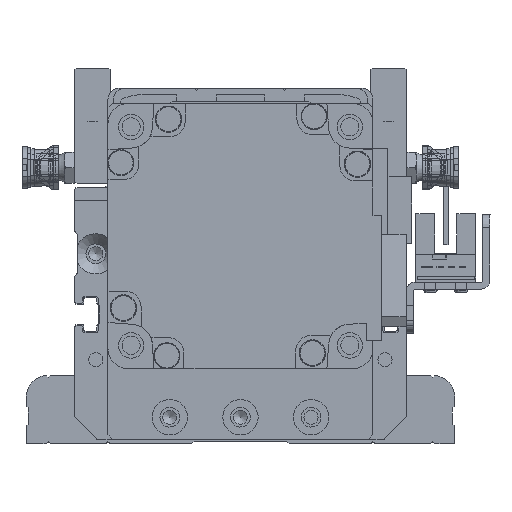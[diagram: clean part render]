
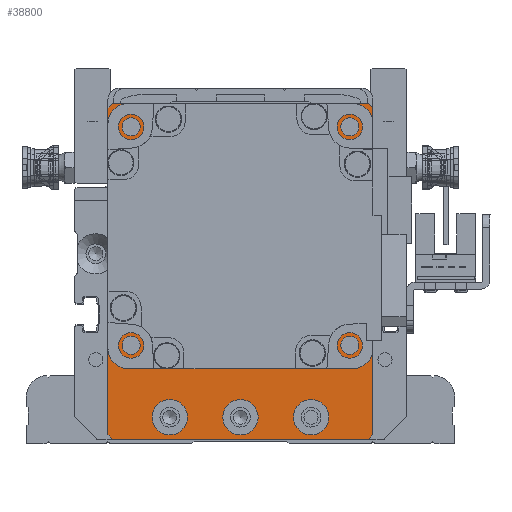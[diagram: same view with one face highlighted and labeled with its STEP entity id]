
A CAD part, front view. The second image highlights one B-rep face of the part: STEP entity #38800.
In plain terms, the highlighted planar face has unit normal (0, -1, 0) as drawn and (0, 0, 1) by its records, which use the part's own axes.
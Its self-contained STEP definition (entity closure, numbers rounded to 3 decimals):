
#2573=FACE_BOUND('',#6607,.T.);
#2574=FACE_BOUND('',#6608,.T.);
#2575=FACE_BOUND('',#6609,.T.);
#2576=FACE_BOUND('',#6610,.T.);
#2577=FACE_BOUND('',#6611,.T.);
#2578=FACE_BOUND('',#6612,.T.);
#2579=FACE_BOUND('',#6613,.T.);
#2580=FACE_BOUND('',#6614,.T.);
#4244=FACE_OUTER_BOUND('',#6606,.T.);
#6606=EDGE_LOOP('',(#33667,#33668,#33669,#33670,#33671,#33672,#33673,#33674));
#6607=EDGE_LOOP('',(#33675));
#6608=EDGE_LOOP('',(#33676));
#6609=EDGE_LOOP('',(#33677));
#6610=EDGE_LOOP('',(#33678));
#6611=EDGE_LOOP('',(#33679));
#6612=EDGE_LOOP('',(#33680));
#6613=EDGE_LOOP('',(#33681));
#6614=EDGE_LOOP('',(#33682));
#8788=CIRCLE('',#43238,25.);
#8789=CIRCLE('',#43239,2.067);
#8790=CIRCLE('',#43240,2.067);
#8791=CIRCLE('',#43241,2.067);
#8792=CIRCLE('',#43242,2.067);
#8793=CIRCLE('',#43243,4.);
#8794=CIRCLE('',#43244,4.);
#8795=CIRCLE('',#43245,4.);
#11544=LINE('',#67370,#14580);
#11546=LINE('',#67374,#14582);
#11549=LINE('',#67380,#14585);
#11550=LINE('',#67382,#14586);
#11551=LINE('',#67384,#14587);
#11552=LINE('',#67386,#14588);
#11553=LINE('',#67388,#14589);
#11554=LINE('',#67389,#14590);
#14580=VECTOR('',#53205,10.);
#14582=VECTOR('',#53209,10.);
#14585=VECTOR('',#53214,10.);
#14586=VECTOR('',#53215,10.);
#14587=VECTOR('',#53216,10.);
#14588=VECTOR('',#53217,10.);
#14589=VECTOR('',#53218,10.);
#14590=VECTOR('',#53219,10.);
#18334=VERTEX_POINT('',#67367);
#18335=VERTEX_POINT('',#67369);
#18336=VERTEX_POINT('',#67373);
#18338=VERTEX_POINT('',#67379);
#18339=VERTEX_POINT('',#67381);
#18340=VERTEX_POINT('',#67383);
#18341=VERTEX_POINT('',#67385);
#18342=VERTEX_POINT('',#67387);
#18343=VERTEX_POINT('',#67390);
#18344=VERTEX_POINT('',#67392);
#18345=VERTEX_POINT('',#67394);
#18346=VERTEX_POINT('',#67396);
#18347=VERTEX_POINT('',#67398);
#18348=VERTEX_POINT('',#67400);
#18349=VERTEX_POINT('',#67402);
#18350=VERTEX_POINT('',#67404);
#23588=EDGE_CURVE('',#18335,#18334,#11544,.T.);
#23590=EDGE_CURVE('',#18335,#18336,#11546,.T.);
#23593=EDGE_CURVE('',#18338,#18334,#11549,.T.);
#23594=EDGE_CURVE('',#18338,#18339,#11550,.T.);
#23595=EDGE_CURVE('',#18340,#18339,#11551,.T.);
#23596=EDGE_CURVE('',#18340,#18341,#11552,.T.);
#23597=EDGE_CURVE('',#18342,#18341,#11553,.T.);
#23598=EDGE_CURVE('',#18342,#18336,#11554,.T.);
#23599=EDGE_CURVE('',#18343,#18343,#8788,.T.);
#23600=EDGE_CURVE('',#18344,#18344,#8789,.T.);
#23601=EDGE_CURVE('',#18345,#18345,#8790,.T.);
#23602=EDGE_CURVE('',#18346,#18346,#8791,.T.);
#23603=EDGE_CURVE('',#18347,#18347,#8792,.T.);
#23604=EDGE_CURVE('',#18348,#18348,#8793,.T.);
#23605=EDGE_CURVE('',#18349,#18349,#8794,.T.);
#23606=EDGE_CURVE('',#18350,#18350,#8795,.T.);
#33667=ORIENTED_EDGE('',*,*,#23590,.F.);
#33668=ORIENTED_EDGE('',*,*,#23588,.T.);
#33669=ORIENTED_EDGE('',*,*,#23593,.F.);
#33670=ORIENTED_EDGE('',*,*,#23594,.T.);
#33671=ORIENTED_EDGE('',*,*,#23595,.F.);
#33672=ORIENTED_EDGE('',*,*,#23596,.T.);
#33673=ORIENTED_EDGE('',*,*,#23597,.F.);
#33674=ORIENTED_EDGE('',*,*,#23598,.T.);
#33675=ORIENTED_EDGE('',*,*,#23599,.T.);
#33676=ORIENTED_EDGE('',*,*,#23600,.T.);
#33677=ORIENTED_EDGE('',*,*,#23601,.T.);
#33678=ORIENTED_EDGE('',*,*,#23602,.T.);
#33679=ORIENTED_EDGE('',*,*,#23603,.T.);
#33680=ORIENTED_EDGE('',*,*,#23604,.T.);
#33681=ORIENTED_EDGE('',*,*,#23605,.T.);
#33682=ORIENTED_EDGE('',*,*,#23606,.T.);
#37055=PLANE('',#43237);
#38800=ADVANCED_FACE('',(#4244,#2573,#2574,#2575,#2576,#2577,#2578,#2579,
#2580),#37055,.T.);
#43237=AXIS2_PLACEMENT_3D('',#67378,#53212,#53213);
#43238=AXIS2_PLACEMENT_3D('',#67391,#53220,#53221);
#43239=AXIS2_PLACEMENT_3D('',#67393,#53222,#53223);
#43240=AXIS2_PLACEMENT_3D('',#67395,#53224,#53225);
#43241=AXIS2_PLACEMENT_3D('',#67397,#53226,#53227);
#43242=AXIS2_PLACEMENT_3D('',#67399,#53228,#53229);
#43243=AXIS2_PLACEMENT_3D('',#67401,#53230,#53231);
#43244=AXIS2_PLACEMENT_3D('',#67403,#53232,#53233);
#43245=AXIS2_PLACEMENT_3D('',#67405,#53234,#53235);
#53205=DIRECTION('',(1.,0.,0.));
#53209=DIRECTION('',(-0.707,0.707,0.));
#53212=DIRECTION('center_axis',(0.,0.,1.));
#53213=DIRECTION('ref_axis',(1.,0.,0.));
#53214=DIRECTION('',(-0.707,-0.707,0.));
#53215=DIRECTION('',(0.,1.,0.));
#53216=DIRECTION('',(0.707,-0.707,0.));
#53217=DIRECTION('',(-1.,0.,0.));
#53218=DIRECTION('',(0.707,0.707,0.));
#53219=DIRECTION('',(0.,-1.,0.));
#53220=DIRECTION('center_axis',(0.,0.,-1.));
#53221=DIRECTION('ref_axis',(1.,0.,0.));
#53222=DIRECTION('center_axis',(0.,0.,-1.));
#53223=DIRECTION('ref_axis',(1.,0.,0.));
#53224=DIRECTION('center_axis',(0.,0.,-1.));
#53225=DIRECTION('ref_axis',(1.,0.,0.));
#53226=DIRECTION('center_axis',(0.,0.,-1.));
#53227=DIRECTION('ref_axis',(1.,0.,0.));
#53228=DIRECTION('center_axis',(0.,0.,-1.));
#53229=DIRECTION('ref_axis',(1.,0.,0.));
#53230=DIRECTION('center_axis',(0.,0.,-1.));
#53231=DIRECTION('ref_axis',(1.,0.,0.));
#53232=DIRECTION('center_axis',(0.,0.,-1.));
#53233=DIRECTION('ref_axis',(1.,0.,0.));
#53234=DIRECTION('center_axis',(0.,0.,-1.));
#53235=DIRECTION('ref_axis',(1.,0.,0.));
#67367=CARTESIAN_POINT('',(29.,-38.,59.));
#67369=CARTESIAN_POINT('',(-29.,-38.,59.));
#67370=CARTESIAN_POINT('',(-30.,-38.,59.));
#67373=CARTESIAN_POINT('',(-30.,-37.,59.));
#67374=CARTESIAN_POINT('',(-31.5,-35.5,59.));
#67378=CARTESIAN_POINT('Origin',(0.,0.,
59.));
#67379=CARTESIAN_POINT('',(30.,-37.,59.));
#67380=CARTESIAN_POINT('',(31.5,-35.5,59.));
#67381=CARTESIAN_POINT('',(30.,37.,59.));
#67382=CARTESIAN_POINT('',(30.,-38.,59.));
#67383=CARTESIAN_POINT('',(29.,38.,59.));
#67384=CARTESIAN_POINT('',(31.5,35.5,59.));
#67385=CARTESIAN_POINT('',(-29.,38.,59.));
#67386=CARTESIAN_POINT('',(30.,38.,59.));
#67387=CARTESIAN_POINT('',(-30.,37.,59.));
#67388=CARTESIAN_POINT('',(-31.5,35.5,59.));
#67389=CARTESIAN_POINT('',(-30.,38.,59.));
#67390=CARTESIAN_POINT('',(-25.,8.,59.));
#67391=CARTESIAN_POINT('Origin',(0.,8.,59.));
#67392=CARTESIAN_POINT('',(22.682,-16.749,59.));
#67393=CARTESIAN_POINT('Origin',(24.749,-16.749,59.));
#67394=CARTESIAN_POINT('',(22.682,32.749,59.));
#67395=CARTESIAN_POINT('Origin',(24.749,32.749,59.));
#67396=CARTESIAN_POINT('',(-26.816,32.749,59.));
#67397=CARTESIAN_POINT('Origin',(-24.749,32.749,59.));
#67398=CARTESIAN_POINT('',(-26.816,-16.749,59.));
#67399=CARTESIAN_POINT('Origin',(-24.749,-16.749,59.));
#67400=CARTESIAN_POINT('',(12.,-33.,59.));
#67401=CARTESIAN_POINT('Origin',(16.,-33.,59.));
#67402=CARTESIAN_POINT('',(-4.,-33.,59.));
#67403=CARTESIAN_POINT('Origin',(0.,-33.,59.));
#67404=CARTESIAN_POINT('',(-20.,-33.,59.));
#67405=CARTESIAN_POINT('Origin',(-16.,-33.,59.));
